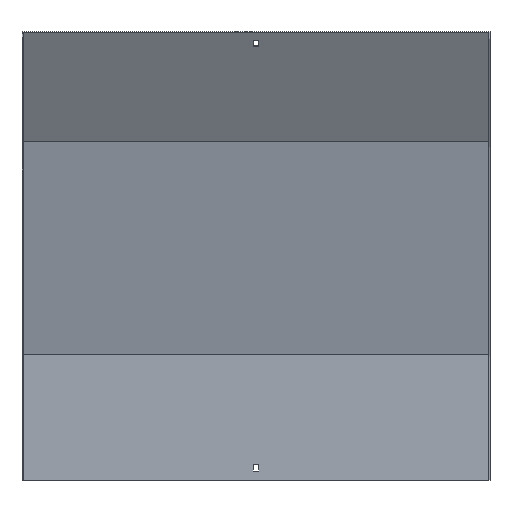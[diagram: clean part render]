
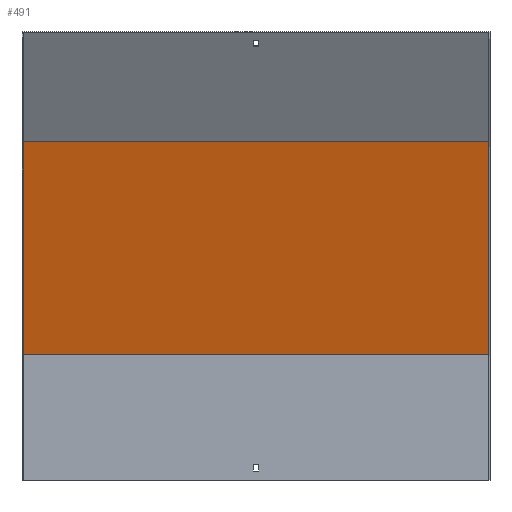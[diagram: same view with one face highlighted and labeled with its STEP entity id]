
A CAD part, front view. The second image highlights one B-rep face of the part: STEP entity #491.
In plain terms, the highlighted planar face has unit normal (0, -0.966, -0.259).
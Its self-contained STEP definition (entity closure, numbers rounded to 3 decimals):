
#32 = FACE_OUTER_BOUND ( 'NONE', #665, .T. ) ;
#47 = VERTEX_POINT ( 'NONE', #609 ) ;
#93 = LINE ( 'NONE', #685, #453 ) ;
#96 = DIRECTION ( 'NONE',  ( -1., 0., 0. ) ) ;
#102 = LINE ( 'NONE', #581, #633 ) ;
#111 = VECTOR ( 'NONE', #698, 1000. ) ;
#128 = CARTESIAN_POINT ( 'NONE',  ( -300., 18.5, 162.436 ) ) ;
#281 = DIRECTION ( 'NONE',  ( 0., -0.966, -0.259 ) ) ;
#286 = CARTESIAN_POINT ( 'NONE',  ( 301.5, -54.971, 436.634 ) ) ;
#287 = ORIENTED_EDGE ( 'NONE', *, *, #371, .T. ) ;
#305 = LINE ( 'NONE', #851, #490 ) ;
#317 = ORIENTED_EDGE ( 'NONE', *, *, #546, .F. ) ;
#338 = DIRECTION ( 'NONE',  ( 0., 0.259, -0.966 ) ) ;
#357 = VERTEX_POINT ( 'NONE', #822 ) ;
#362 = EDGE_CURVE ( 'NONE', #47, #627, #93, .T. ) ;
#371 = EDGE_CURVE ( 'NONE', #47, #789, #102, .T. ) ;
#376 = DIRECTION ( 'NONE',  ( 0., -0.259, 0.966 ) ) ;
#378 = EDGE_CURVE ( 'NONE', #789, #357, #566, .T. ) ;
#407 = ORIENTED_EDGE ( 'NONE', *, *, #378, .T. ) ;
#411 = PLANE ( 'NONE',  #437 ) ;
#437 = AXIS2_PLACEMENT_3D ( 'NONE', #816, #281, #338 ) ;
#453 = VECTOR ( 'NONE', #96, 1000. ) ;
#490 = VECTOR ( 'NONE', #376, 1000. ) ;
#491 = ADVANCED_FACE ( 'NONE', ( #32 ), #411, .T. ) ;
#505 = CARTESIAN_POINT ( 'NONE',  ( 300., -54.971, 436.634 ) ) ;
#546 = EDGE_CURVE ( 'NONE', #627, #357, #305, .T. ) ;
#566 = LINE ( 'NONE', #286, #111 ) ;
#581 = CARTESIAN_POINT ( 'NONE',  ( 300., 57.87, 15.506 ) ) ;
#609 = CARTESIAN_POINT ( 'NONE',  ( 300., 18.5, 162.436 ) ) ;
#627 = VERTEX_POINT ( 'NONE', #128 ) ;
#633 = VECTOR ( 'NONE', #823, 1000. ) ;
#658 = ORIENTED_EDGE ( 'NONE', *, *, #362, .F. ) ;
#665 = EDGE_LOOP ( 'NONE', ( #317, #658, #287, #407 ) ) ;
#685 = CARTESIAN_POINT ( 'NONE',  ( 301.5, 18.5, 162.436 ) ) ;
#698 = DIRECTION ( 'NONE',  ( -1., 0., 0. ) ) ;
#789 = VERTEX_POINT ( 'NONE', #505 ) ;
#816 = CARTESIAN_POINT ( 'NONE',  ( 301.5, 17.87, 164.788 ) ) ;
#822 = CARTESIAN_POINT ( 'NONE',  ( -300., -54.971, 436.634 ) ) ;
#823 = DIRECTION ( 'NONE',  ( 0., -0.259, 0.966 ) ) ;
#851 = CARTESIAN_POINT ( 'NONE',  ( -300., 57.87, 15.506 ) ) ;
